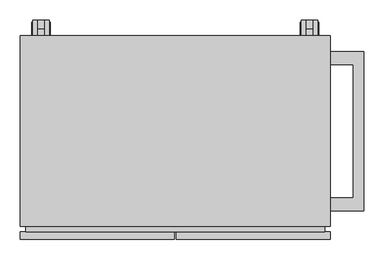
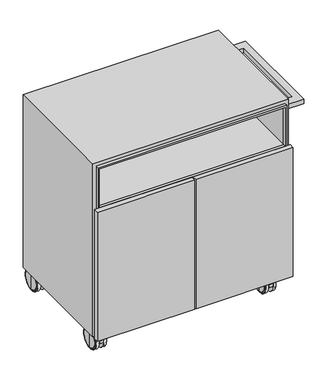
"""IFC4 building model written with IfcOpenShell, lengths in millimetres: furniture geometry, Steelcase Coalesse - Exponents - Storage - Mobile Cart : 19 3/4D X 30W X 32H."""

from ifc_helpers import new_model, si_unit, point, frame, frame_2d, origin, place, context, project, spatial, polyline, circle_curve, ellipse_curve, trimmed, segment, composite_curve, outline, extrude, faceted_brep, source, transform, mapped, element, save
from ifc_brep_helpers import plane_surface, cylinder_surface, revolved_surface, advanced_brep


def furniture_2f48e15f(model_context):
    return source(origin(), model_context, "Body", "SolidModel", [
        advanced_brep(
        [(27.94, 497.8146, 77.57023), (27.94, 497.8146, 7.16417), (27.94, 497.8146, 42.3672), (28.1659176, 497.8146, 79.7959885), (28.1659176, 497.8146, 4.9384115), (30.8610356, 497.8146, 82.9149652), (30.8610356, 497.8146, 1.8194348), (30.8610356, 497.8146, 84.7344), (30.8610356, 497.8146, 0.0), (41.6052, 497.8146, 84.7344), (41.6052, 497.8146, 0.0), (41.6052, 497.8146, 70.1188345), (41.6052, 497.8146, 14.6155655), (43.18, 497.8146, 70.1188345), (43.18, 497.8146, 14.6155655), (43.18, 497.8146, 42.3672)],
        [
            (0, 1, circle_curve(frame((27.94, 497.8146, 42.3672), z_axis=(-1.0, 0.0, 0.0), x_axis=(0.0, 0.0, -1.0)), 35.20303)),
            (1, 2),
            (2, 0),
            (1, 0, circle_curve(frame((27.94, 497.8146, 42.3672), z_axis=(-1.0, 0.0, 0.0), x_axis=(0.0, 0.0, -1.0)), 35.20303)),
            (3, 4, circle_curve(frame((28.1659176, 497.8146, 42.3672), z_axis=(-1.0, 0.0, 0.0), x_axis=(0.0, 0.0, -1.0)), 37.4287885)),
            (4, 1, circle_curve(frame((39.0171352, 497.8146, 7.16417), z_axis=(0.0, 1.0, 0.0), x_axis=(1.0, 0.0, 0.0)), 11.0771352)),
            (0, 3, circle_curve(frame((39.0171352, 497.8146, 77.57023), z_axis=(0.0, 1.0, 0.0), x_axis=(1.0, 0.0, 0.0)), 11.0771352)),
            (4, 3, circle_curve(frame((28.1659176, 497.8146, 42.3672), z_axis=(-1.0, 0.0, 0.0), x_axis=(0.0, 0.0, -1.0)), 37.4287885)),
            (5, 6, circle_curve(frame((30.8610356, 497.8146, 42.3672), z_axis=(-1.0, 0.0, 0.0), x_axis=(0.0, 0.0, -1.0)), 40.5477652)),
            (6, 4, circle_curve(frame((32.2994094, 497.8146, 5.7862568), z_axis=(0.0, 1.0, 0.0), x_axis=(1.0, 0.0, 0.0)), 4.2195493)),
            (3, 5, circle_curve(frame((32.2994094, 497.8146, 78.9481432), z_axis=(0.0, 1.0, 0.0), x_axis=(1.0, 0.0, 0.0)), 4.2195493)),
            (6, 5, circle_curve(frame((30.8610356, 497.8146, 42.3672), z_axis=(-1.0, 0.0, 0.0), x_axis=(0.0, 0.0, -1.0)), 40.5477652)),
            (7, 8, circle_curve(frame((30.8610356, 497.8146, 42.3672), z_axis=(-1.0, 0.0, 0.0), x_axis=(0.0, 0.0, -1.0)), 42.3672)),
            (8, 6),
            (5, 7),
            (8, 7, circle_curve(frame((30.8610356, 497.8146, 42.3672), z_axis=(-1.0, 0.0, 0.0), x_axis=(0.0, 0.0, -1.0)), 42.3672)),
            (9, 10, circle_curve(frame((41.6052, 497.8146, 42.3672), z_axis=(-1.0, 0.0, 0.0), x_axis=(0.0, 0.0, -1.0)), 42.3672)),
            (10, 8),
            (7, 9),
            (10, 9, circle_curve(frame((41.6052, 497.8146, 42.3672), z_axis=(-1.0, 0.0, 0.0), x_axis=(0.0, 0.0, -1.0)), 42.3672)),
            (11, 12, circle_curve(frame((41.6052, 497.8146, 42.3672), z_axis=(-1.0, 0.0, 0.0), x_axis=(0.0, 0.0, -1.0)), 27.7516345)),
            (12, 10),
            (9, 11),
            (12, 11, circle_curve(frame((41.6052, 497.8146, 42.3672), z_axis=(-1.0, 0.0, 0.0), x_axis=(0.0, 0.0, -1.0)), 27.7516345)),
            (13, 14, circle_curve(frame((43.18, 497.8146, 42.3672), z_axis=(-1.0, 0.0, 0.0), x_axis=(0.0, 0.0, -1.0)), 27.7516345)),
            (14, 12),
            (11, 13),
            (14, 13, circle_curve(frame((43.18, 497.8146, 42.3672), z_axis=(-1.0, 0.0, 0.0), x_axis=(0.0, 0.0, -1.0)), 27.7516345)),
            (15, 14),
            (13, 15),
        ],
        [
            plane_surface(frame((27.94, 497.8146, 42.3672), z_axis=(-1.0, 0.0, 0.0), x_axis=(0.0, 0.0, -1.0))),
            revolved_surface(trimmed(ellipse_curve(frame((39.0171352, 497.8146, 7.16417), z_axis=(0.0, -1.0, 0.0), x_axis=(1.0, 0.0, 0.0)), 11.0771352, 11.0771352), [point((27.94, 497.8146, 7.16417))], [point((28.1659176, 497.8146, 4.9384115))], True, "CARTESIAN"), (27.94, 497.8146, 42.3672), (1.0, 0.0, 0.0)),
            revolved_surface(trimmed(ellipse_curve(frame((32.2994094, 497.8146, 5.7862568), z_axis=(0.0, -1.0, 0.0), x_axis=(1.0, 0.0, 0.0)), 4.2195493, 4.2195493), [point((28.1659176, 497.8146, 4.9384115))], [point((30.8610356, 497.8146, 1.8194348))], True, "CARTESIAN"), (27.94, 497.8146, 42.3672), (1.0, 0.0, 0.0)),
            plane_surface(frame((30.8610356, 497.8146, 42.3672), z_axis=(-1.0, 0.0, 0.0), x_axis=(0.0, 0.0, -1.0))),
            cylinder_surface(frame((27.94, 497.8146, 42.3672), z_axis=(1.0, 0.0, 0.0), x_axis=(0.0, 0.0, -1.0)), 42.3672),
            plane_surface(frame((41.6052, 497.8146, 42.3672), z_axis=(1.0, 0.0, 0.0), x_axis=(0.0, 0.0, -1.0))),
            cylinder_surface(frame((27.94, 497.8146, 42.3672), z_axis=(1.0, 0.0, 0.0), x_axis=(0.0, 0.0, -1.0)), 27.7516345),
            plane_surface(frame((43.18, 497.8146, 42.3672), z_axis=(1.0, 0.0, 0.0), x_axis=(0.0, 0.0, -1.0))),
        ],
        [
            (0, [[1, 2, 3]]),
            (0, [[4, -3, -2]]),
            (1, [[5, 6, -1, 7]]),
            (1, [[8, -7, -4, -6]]),
            (2, [[9, 10, -5, 11]]),
            (2, [[12, -11, -8, -10]]),
            (3, [[13, 14, -9, 15]]),
            (3, [[16, -15, -12, -14]]),
            (4, [[17, 18, -13, 19]]),
            (4, [[20, -19, -16, -18]]),
            (5, [[21, 22, -17, 23]]),
            (5, [[24, -23, -20, -22]]),
            (6, [[25, 26, -21, 27]]),
            (6, [[28, -27, -24, -26]]),
            (7, [[29, -25, 30]]),
            (7, [[-30, -28, -29]]),
        ],
    ),
        extrude(outline(composite_curve([segment(polyline([(530.225, 37.9984), (455.7241881, 37.9984)]), True, "CONTINUOUS"), segment(trimmed(circle_curve(frame_2d((499.8868014, 39.2316684)), 44.1798299), [point((455.7241881, 37.9984))], [point((518.939747, 79.0919573))], False, "CARTESIAN"), True, "CONTINUOUS"), segment(trimmed(circle_curve(frame_2d((497.8199262, 42.3720906)), 42.360305), [point((518.939747, 79.0919573))], [point((530.225, 15.090107))], False, "CARTESIAN"), True, "CONTINUOUS"), segment(polyline([(530.225, 15.090107), (530.225, 37.9984)]), True, "CONTINUOUS")], self_intersect=False)), frame((43.18, 0.0, 0.0), z_axis=(1.0, 0.0, 0.0), x_axis=(0.0, 1.0, 0.0)), (0.0, 0.0, 1.0), 15.24),
        extrude(outline(composite_curve([segment(trimmed(circle_curve(frame_2d((50.8111483, 463.4713876)), 7.6088517), [point((43.2022966, 463.4713876))], [point((58.42, 463.4713876))], False, "CARTESIAN"), True, "CONTINUOUS"), segment(trimmed(circle_curve(frame_2d((50.8111483, 463.4713876)), 7.6088517), [point((58.42, 463.4713876))], [point((43.2022966, 463.4713876))], False, "CARTESIAN"), True, "CONTINUOUS")], self_intersect=False)), frame((0.0, 0.0, 49.9773023), z_axis=(0.0, 0.0, 1.0), x_axis=(1.0, 0.0, 0.0)), (0.0, 0.0, 1.0), 48.3206977),
        extrude(outline(polyline([(78.359, 491.109), (78.359, 435.991), (23.241, 435.991), (23.241, 491.109), (78.359, 491.109)])), frame((0.0, 0.0, 98.298), z_axis=(0.0, 0.0, 1.0), x_axis=(1.0, 0.0, 0.0)), (0.0, 0.0, 1.0), 3.302),
        advanced_brep(
        [(58.42, 497.8146, 70.1188345), (58.42, 497.8146, 14.6155655), (58.42, 497.8146, 42.3672), (59.9948, 497.8146, 70.1188345), (59.9948, 497.8146, 14.6155655), (59.9948, 497.8146, 84.7344), (59.9948, 497.8146, 0.0), (70.7389644, 497.8146, 84.7344), (70.7389644, 497.8146, 0.0), (70.7389644, 497.8146, 82.9149652), (70.7389644, 497.8146, 1.8194348), (73.4340824, 497.8146, 79.7959885), (73.4340824, 497.8146, 4.9384115), (73.66, 497.8146, 77.57023), (73.66, 497.8146, 7.16417), (73.66, 497.8146, 42.3672)],
        [
            (0, 1, circle_curve(frame((58.42, 497.8146, 42.3672), z_axis=(-1.0, 0.0, 0.0), x_axis=(0.0, 0.0, -1.0)), 27.7516345)),
            (1, 2),
            (2, 0),
            (1, 0, circle_curve(frame((58.42, 497.8146, 42.3672), z_axis=(-1.0, 0.0, 0.0), x_axis=(0.0, 0.0, -1.0)), 27.7516345)),
            (3, 4, circle_curve(frame((59.9948, 497.8146, 42.3672), z_axis=(-1.0, 0.0, 0.0), x_axis=(0.0, 0.0, -1.0)), 27.7516345)),
            (4, 1),
            (0, 3),
            (4, 3, circle_curve(frame((59.9948, 497.8146, 42.3672), z_axis=(-1.0, 0.0, 0.0), x_axis=(0.0, 0.0, -1.0)), 27.7516345)),
            (5, 6, circle_curve(frame((59.9948, 497.8146, 42.3672), z_axis=(-1.0, 0.0, 0.0), x_axis=(0.0, 0.0, -1.0)), 42.3672)),
            (6, 4),
            (3, 5),
            (6, 5, circle_curve(frame((59.9948, 497.8146, 42.3672), z_axis=(-1.0, 0.0, 0.0), x_axis=(0.0, 0.0, -1.0)), 42.3672)),
            (7, 8, circle_curve(frame((70.7389644, 497.8146, 42.3672), z_axis=(-1.0, 0.0, 0.0), x_axis=(0.0, 0.0, -1.0)), 42.3672)),
            (8, 6),
            (5, 7),
            (8, 7, circle_curve(frame((70.7389644, 497.8146, 42.3672), z_axis=(-1.0, 0.0, 0.0), x_axis=(0.0, 0.0, -1.0)), 42.3672)),
            (9, 10, circle_curve(frame((70.7389644, 497.8146, 42.3672), z_axis=(-1.0, 0.0, 0.0), x_axis=(0.0, 0.0, -1.0)), 40.5477652)),
            (10, 8),
            (7, 9),
            (10, 9, circle_curve(frame((70.7389644, 497.8146, 42.3672), z_axis=(-1.0, 0.0, 0.0), x_axis=(0.0, 0.0, -1.0)), 40.5477652)),
            (11, 12, circle_curve(frame((73.4340824, 497.8146, 42.3672), z_axis=(-1.0, 0.0, 0.0), x_axis=(0.0, 0.0, -1.0)), 37.4287885)),
            (12, 10, circle_curve(frame((69.3005906, 497.8146, 5.7862568), z_axis=(0.0, 1.0, 0.0), x_axis=(-1.0, 0.0, 0.0)), 4.2195493)),
            (9, 11, circle_curve(frame((69.3005906, 497.8146, 78.9481432), z_axis=(0.0, 1.0, 0.0), x_axis=(-1.0, 0.0, 0.0)), 4.2195493)),
            (12, 11, circle_curve(frame((73.4340824, 497.8146, 42.3672), z_axis=(-1.0, 0.0, 0.0), x_axis=(0.0, 0.0, -1.0)), 37.4287885)),
            (13, 14, circle_curve(frame((73.66, 497.8146, 42.3672), z_axis=(-1.0, 0.0, 0.0), x_axis=(0.0, 0.0, -1.0)), 35.20303)),
            (14, 12, circle_curve(frame((62.5828648, 497.8146, 7.16417), z_axis=(0.0, 1.0, 0.0), x_axis=(-1.0, 0.0, 0.0)), 11.0771352)),
            (11, 13, circle_curve(frame((62.5828648, 497.8146, 77.57023), z_axis=(0.0, 1.0, 0.0), x_axis=(-1.0, 0.0, 0.0)), 11.0771352)),
            (14, 13, circle_curve(frame((73.66, 497.8146, 42.3672), z_axis=(-1.0, 0.0, 0.0), x_axis=(0.0, 0.0, -1.0)), 35.20303)),
            (15, 14),
            (13, 15),
        ],
        [
            plane_surface(frame((58.42, 497.8146, 42.3672), z_axis=(-1.0, 0.0, 0.0), x_axis=(0.0, 0.0, -1.0))),
            cylinder_surface(frame((73.66, 497.8146, 42.3672), z_axis=(1.0, 0.0, 0.0), x_axis=(0.0, 0.0, -1.0)), 27.7516345),
            plane_surface(frame((59.9948, 497.8146, 42.3672), z_axis=(-1.0, 0.0, 0.0), x_axis=(0.0, 0.0, -1.0))),
            cylinder_surface(frame((73.66, 497.8146, 42.3672), z_axis=(1.0, 0.0, 0.0), x_axis=(0.0, 0.0, -1.0)), 42.3672),
            plane_surface(frame((70.7389644, 497.8146, 42.3672), z_axis=(1.0, 0.0, 0.0), x_axis=(0.0, 0.0, -1.0))),
            revolved_surface(trimmed(ellipse_curve(frame((69.3005906, 497.8146, 5.7862568), z_axis=(0.0, -1.0, 0.0), x_axis=(-1.0, 0.0, 0.0)), 4.2195493, 4.2195493), [point((70.7389644, 497.8146, 1.8194348))], [point((73.4340824, 497.8146, 4.9384115))], True, "CARTESIAN"), (73.66, 497.8146, 42.3672), (1.0, 0.0, 0.0)),
            revolved_surface(trimmed(ellipse_curve(frame((62.5828648, 497.8146, 7.16417), z_axis=(0.0, -1.0, 0.0), x_axis=(-1.0, 0.0, 0.0)), 11.0771352, 11.0771352), [point((73.4340824, 497.8146, 4.9384115))], [point((73.66, 497.8146, 7.16417))], True, "CARTESIAN"), (73.66, 497.8146, 42.3672), (1.0, 0.0, 0.0)),
            plane_surface(frame((73.66, 497.8146, 42.3672), z_axis=(1.0, 0.0, 0.0), x_axis=(0.0, 0.0, -1.0))),
        ],
        [
            (0, [[1, 2, 3]]),
            (0, [[4, -3, -2]]),
            (1, [[5, 6, -1, 7]]),
            (1, [[8, -7, -4, -6]]),
            (2, [[9, 10, -5, 11]]),
            (2, [[12, -11, -8, -10]]),
            (3, [[13, 14, -9, 15]]),
            (3, [[16, -15, -12, -14]]),
            (4, [[17, 18, -13, 19]]),
            (4, [[20, -19, -16, -18]]),
            (5, [[21, 22, -17, 23]]),
            (5, [[24, -23, -20, -22]]),
            (6, [[25, 26, -21, 27]]),
            (6, [[28, -27, -24, -26]]),
            (7, [[29, -25, 30]]),
            (7, [[-30, -28, -29]]),
        ],
    ),
        advanced_brep(
        [(27.94, 104.1146, 77.57023), (27.94, 104.1146, 7.16417), (27.94, 104.1146, 42.3672), (28.1659176, 104.1146, 79.7959885), (28.1659176, 104.1146, 4.9384115), (30.8610356, 104.1146, 82.9149652), (30.8610356, 104.1146, 1.8194348), (30.8610356, 104.1146, 84.7344), (30.8610356, 104.1146, 0.0), (41.6052, 104.1146, 84.7344), (41.6052, 104.1146, 0.0), (41.6052, 104.1146, 70.1188345), (41.6052, 104.1146, 14.6155655), (43.18, 104.1146, 70.1188345), (43.18, 104.1146, 14.6155655), (43.18, 104.1146, 42.3672)],
        [
            (0, 1, circle_curve(frame((27.94, 104.1146, 42.3672), z_axis=(-1.0, 0.0, 0.0), x_axis=(0.0, 0.0, -1.0)), 35.20303)),
            (1, 2),
            (2, 0),
            (1, 0, circle_curve(frame((27.94, 104.1146, 42.3672), z_axis=(-1.0, 0.0, 0.0), x_axis=(0.0, 0.0, -1.0)), 35.20303)),
            (3, 4, circle_curve(frame((28.1659176, 104.1146, 42.3672), z_axis=(-1.0, 0.0, 0.0), x_axis=(0.0, 0.0, -1.0)), 37.4287885)),
            (4, 1, circle_curve(frame((39.0171352, 104.1146, 7.16417), z_axis=(0.0, 1.0, 0.0), x_axis=(1.0, 0.0, 0.0)), 11.0771352)),
            (0, 3, circle_curve(frame((39.0171352, 104.1146, 77.57023), z_axis=(0.0, 1.0, 0.0), x_axis=(1.0, 0.0, 0.0)), 11.0771352)),
            (4, 3, circle_curve(frame((28.1659176, 104.1146, 42.3672), z_axis=(-1.0, 0.0, 0.0), x_axis=(0.0, 0.0, -1.0)), 37.4287885)),
            (5, 6, circle_curve(frame((30.8610356, 104.1146, 42.3672), z_axis=(-1.0, 0.0, 0.0), x_axis=(0.0, 0.0, -1.0)), 40.5477652)),
            (6, 4, circle_curve(frame((32.2994094, 104.1146, 5.7862568), z_axis=(0.0, 1.0, 0.0), x_axis=(1.0, 0.0, 0.0)), 4.2195493)),
            (3, 5, circle_curve(frame((32.2994094, 104.1146, 78.9481432), z_axis=(0.0, 1.0, 0.0), x_axis=(1.0, 0.0, 0.0)), 4.2195493)),
            (6, 5, circle_curve(frame((30.8610356, 104.1146, 42.3672), z_axis=(-1.0, 0.0, 0.0), x_axis=(0.0, 0.0, -1.0)), 40.5477652)),
            (7, 8, circle_curve(frame((30.8610356, 104.1146, 42.3672), z_axis=(-1.0, 0.0, 0.0), x_axis=(0.0, 0.0, -1.0)), 42.3672)),
            (8, 6),
            (5, 7),
            (8, 7, circle_curve(frame((30.8610356, 104.1146, 42.3672), z_axis=(-1.0, 0.0, 0.0), x_axis=(0.0, 0.0, -1.0)), 42.3672)),
            (9, 10, circle_curve(frame((41.6052, 104.1146, 42.3672), z_axis=(-1.0, 0.0, 0.0), x_axis=(0.0, 0.0, -1.0)), 42.3672)),
            (10, 8),
            (7, 9),
            (10, 9, circle_curve(frame((41.6052, 104.1146, 42.3672), z_axis=(-1.0, 0.0, 0.0), x_axis=(0.0, 0.0, -1.0)), 42.3672)),
            (11, 12, circle_curve(frame((41.6052, 104.1146, 42.3672), z_axis=(-1.0, 0.0, 0.0), x_axis=(0.0, 0.0, -1.0)), 27.7516345)),
            (12, 10),
            (9, 11),
            (12, 11, circle_curve(frame((41.6052, 104.1146, 42.3672), z_axis=(-1.0, 0.0, 0.0), x_axis=(0.0, 0.0, -1.0)), 27.7516345)),
            (13, 14, circle_curve(frame((43.18, 104.1146, 42.3672), z_axis=(-1.0, 0.0, 0.0), x_axis=(0.0, 0.0, -1.0)), 27.7516345)),
            (14, 12),
            (11, 13),
            (14, 13, circle_curve(frame((43.18, 104.1146, 42.3672), z_axis=(-1.0, 0.0, 0.0), x_axis=(0.0, 0.0, -1.0)), 27.7516345)),
            (15, 14),
            (13, 15),
        ],
        [
            plane_surface(frame((27.94, 104.1146, 42.3672), z_axis=(-1.0, 0.0, 0.0), x_axis=(0.0, 0.0, -1.0))),
            revolved_surface(trimmed(ellipse_curve(frame((39.0171352, 104.1146, 7.16417), z_axis=(0.0, -1.0, 0.0), x_axis=(1.0, 0.0, 0.0)), 11.0771352, 11.0771352), [point((27.94, 104.1146, 7.16417))], [point((28.1659176, 104.1146, 4.9384115))], True, "CARTESIAN"), (27.94, 104.1146, 42.3672), (1.0, 0.0, 0.0)),
            revolved_surface(trimmed(ellipse_curve(frame((32.2994094, 104.1146, 5.7862568), z_axis=(0.0, -1.0, 0.0), x_axis=(1.0, 0.0, 0.0)), 4.2195493, 4.2195493), [point((28.1659176, 104.1146, 4.9384115))], [point((30.8610356, 104.1146, 1.8194348))], True, "CARTESIAN"), (27.94, 104.1146, 42.3672), (1.0, 0.0, 0.0)),
            plane_surface(frame((30.8610356, 104.1146, 42.3672), z_axis=(-1.0, 0.0, 0.0), x_axis=(0.0, 0.0, -1.0))),
            cylinder_surface(frame((27.94, 104.1146, 42.3672), z_axis=(1.0, 0.0, 0.0), x_axis=(0.0, 0.0, -1.0)), 42.3672),
            plane_surface(frame((41.6052, 104.1146, 42.3672), z_axis=(1.0, 0.0, 0.0), x_axis=(0.0, 0.0, -1.0))),
            cylinder_surface(frame((27.94, 104.1146, 42.3672), z_axis=(1.0, 0.0, 0.0), x_axis=(0.0, 0.0, -1.0)), 27.7516345),
            plane_surface(frame((43.18, 104.1146, 42.3672), z_axis=(1.0, 0.0, 0.0), x_axis=(0.0, 0.0, -1.0))),
        ],
        [
            (0, [[1, 2, 3]]),
            (0, [[4, -3, -2]]),
            (1, [[5, 6, -1, 7]]),
            (1, [[8, -7, -4, -6]]),
            (2, [[9, 10, -5, 11]]),
            (2, [[12, -11, -8, -10]]),
            (3, [[13, 14, -9, 15]]),
            (3, [[16, -15, -12, -14]]),
            (4, [[17, 18, -13, 19]]),
            (4, [[20, -19, -16, -18]]),
            (5, [[21, 22, -17, 23]]),
            (5, [[24, -23, -20, -22]]),
            (6, [[25, 26, -21, 27]]),
            (6, [[28, -27, -24, -26]]),
            (7, [[29, -25, 30]]),
            (7, [[-30, -28, -29]]),
        ],
    ),
        extrude(outline(composite_curve([segment(polyline([(136.525, 37.9984), (62.0241881, 37.9984)]), True, "CONTINUOUS"), segment(trimmed(circle_curve(frame_2d((106.1868014, 39.2316684)), 44.1798299), [point((62.0241881, 37.9984))], [point((125.239747, 79.0919573))], False, "CARTESIAN"), True, "CONTINUOUS"), segment(trimmed(circle_curve(frame_2d((104.1199262, 42.3720906)), 42.360305), [point((125.239747, 79.0919573))], [point((136.525, 15.090107))], False, "CARTESIAN"), True, "CONTINUOUS"), segment(polyline([(136.525, 15.090107), (136.525, 37.9984)]), True, "CONTINUOUS")], self_intersect=False)), frame((43.18, 0.0, 0.0), z_axis=(1.0, 0.0, 0.0), x_axis=(0.0, 1.0, 0.0)), (0.0, 0.0, 1.0), 15.24),
        extrude(outline(composite_curve([segment(trimmed(circle_curve(frame_2d((50.8111483, 69.7713876)), 7.6088517), [point((43.2022966, 69.7713876))], [point((58.42, 69.7713876))], False, "CARTESIAN"), True, "CONTINUOUS"), segment(trimmed(circle_curve(frame_2d((50.8111483, 69.7713876)), 7.6088517), [point((58.42, 69.7713876))], [point((43.2022966, 69.7713876))], False, "CARTESIAN"), True, "CONTINUOUS")], self_intersect=False)), frame((0.0, 0.0, 49.9773023), z_axis=(0.0, 0.0, 1.0), x_axis=(1.0, 0.0, 0.0)), (0.0, 0.0, 1.0), 48.3206977),
        extrude(outline(polyline([(78.359, 97.409), (78.359, 42.291), (23.241, 42.291), (23.241, 97.409), (78.359, 97.409)])), frame((0.0, 0.0, 98.298), z_axis=(0.0, 0.0, 1.0), x_axis=(1.0, 0.0, 0.0)), (0.0, 0.0, 1.0), 3.302),
        advanced_brep(
        [(58.42, 104.1146, 70.1188345), (58.42, 104.1146, 14.6155655), (58.42, 104.1146, 42.3672), (59.9948, 104.1146, 70.1188345), (59.9948, 104.1146, 14.6155655), (59.9948, 104.1146, 84.7344), (59.9948, 104.1146, 0.0), (70.7389644, 104.1146, 84.7344), (70.7389644, 104.1146, 0.0), (70.7389644, 104.1146, 82.9149652), (70.7389644, 104.1146, 1.8194348), (73.4340824, 104.1146, 79.7959885), (73.4340824, 104.1146, 4.9384115), (73.66, 104.1146, 77.57023), (73.66, 104.1146, 7.16417), (73.66, 104.1146, 42.3672)],
        [
            (0, 1, circle_curve(frame((58.42, 104.1146, 42.3672), z_axis=(-1.0, 0.0, 0.0), x_axis=(0.0, 0.0, -1.0)), 27.7516345)),
            (1, 2),
            (2, 0),
            (1, 0, circle_curve(frame((58.42, 104.1146, 42.3672), z_axis=(-1.0, 0.0, 0.0), x_axis=(0.0, 0.0, -1.0)), 27.7516345)),
            (3, 4, circle_curve(frame((59.9948, 104.1146, 42.3672), z_axis=(-1.0, 0.0, 0.0), x_axis=(0.0, 0.0, -1.0)), 27.7516345)),
            (4, 1),
            (0, 3),
            (4, 3, circle_curve(frame((59.9948, 104.1146, 42.3672), z_axis=(-1.0, 0.0, 0.0), x_axis=(0.0, 0.0, -1.0)), 27.7516345)),
            (5, 6, circle_curve(frame((59.9948, 104.1146, 42.3672), z_axis=(-1.0, 0.0, 0.0), x_axis=(0.0, 0.0, -1.0)), 42.3672)),
            (6, 4),
            (3, 5),
            (6, 5, circle_curve(frame((59.9948, 104.1146, 42.3672), z_axis=(-1.0, 0.0, 0.0), x_axis=(0.0, 0.0, -1.0)), 42.3672)),
            (7, 8, circle_curve(frame((70.7389644, 104.1146, 42.3672), z_axis=(-1.0, 0.0, 0.0), x_axis=(0.0, 0.0, -1.0)), 42.3672)),
            (8, 6),
            (5, 7),
            (8, 7, circle_curve(frame((70.7389644, 104.1146, 42.3672), z_axis=(-1.0, 0.0, 0.0), x_axis=(0.0, 0.0, -1.0)), 42.3672)),
            (9, 10, circle_curve(frame((70.7389644, 104.1146, 42.3672), z_axis=(-1.0, 0.0, 0.0), x_axis=(0.0, 0.0, -1.0)), 40.5477652)),
            (10, 8),
            (7, 9),
            (10, 9, circle_curve(frame((70.7389644, 104.1146, 42.3672), z_axis=(-1.0, 0.0, 0.0), x_axis=(0.0, 0.0, -1.0)), 40.5477652)),
            (11, 12, circle_curve(frame((73.4340824, 104.1146, 42.3672), z_axis=(-1.0, 0.0, 0.0), x_axis=(0.0, 0.0, -1.0)), 37.4287885)),
            (12, 10, circle_curve(frame((69.3005906, 104.1146, 5.7862568), z_axis=(0.0, 1.0, 0.0), x_axis=(-1.0, 0.0, 0.0)), 4.2195493)),
            (9, 11, circle_curve(frame((69.3005906, 104.1146, 78.9481432), z_axis=(0.0, 1.0, 0.0), x_axis=(-1.0, 0.0, 0.0)), 4.2195493)),
            (12, 11, circle_curve(frame((73.4340824, 104.1146, 42.3672), z_axis=(-1.0, 0.0, 0.0), x_axis=(0.0, 0.0, -1.0)), 37.4287885)),
            (13, 14, circle_curve(frame((73.66, 104.1146, 42.3672), z_axis=(-1.0, 0.0, 0.0), x_axis=(0.0, 0.0, -1.0)), 35.20303)),
            (14, 12, circle_curve(frame((62.5828648, 104.1146, 7.16417), z_axis=(0.0, 1.0, 0.0), x_axis=(-1.0, 0.0, 0.0)), 11.0771352)),
            (11, 13, circle_curve(frame((62.5828648, 104.1146, 77.57023), z_axis=(0.0, 1.0, 0.0), x_axis=(-1.0, 0.0, 0.0)), 11.0771352)),
            (14, 13, circle_curve(frame((73.66, 104.1146, 42.3672), z_axis=(-1.0, 0.0, 0.0), x_axis=(0.0, 0.0, -1.0)), 35.20303)),
            (15, 14),
            (13, 15),
        ],
        [
            plane_surface(frame((58.42, 104.1146, 42.3672), z_axis=(-1.0, 0.0, 0.0), x_axis=(0.0, 0.0, -1.0))),
            cylinder_surface(frame((73.66, 104.1146, 42.3672), z_axis=(1.0, 0.0, 0.0), x_axis=(0.0, 0.0, -1.0)), 27.7516345),
            plane_surface(frame((59.9948, 104.1146, 42.3672), z_axis=(-1.0, 0.0, 0.0), x_axis=(0.0, 0.0, -1.0))),
            cylinder_surface(frame((73.66, 104.1146, 42.3672), z_axis=(1.0, 0.0, 0.0), x_axis=(0.0, 0.0, -1.0)), 42.3672),
            plane_surface(frame((70.7389644, 104.1146, 42.3672), z_axis=(1.0, 0.0, 0.0), x_axis=(0.0, 0.0, -1.0))),
            revolved_surface(trimmed(ellipse_curve(frame((69.3005906, 104.1146, 5.7862568), z_axis=(0.0, -1.0, 0.0), x_axis=(-1.0, 0.0, 0.0)), 4.2195493, 4.2195493), [point((70.7389644, 104.1146, 1.8194348))], [point((73.4340824, 104.1146, 4.9384115))], True, "CARTESIAN"), (73.66, 104.1146, 42.3672), (1.0, 0.0, 0.0)),
            revolved_surface(trimmed(ellipse_curve(frame((62.5828648, 104.1146, 7.16417), z_axis=(0.0, -1.0, 0.0), x_axis=(-1.0, 0.0, 0.0)), 11.0771352, 11.0771352), [point((73.4340824, 104.1146, 4.9384115))], [point((73.66, 104.1146, 7.16417))], True, "CARTESIAN"), (73.66, 104.1146, 42.3672), (1.0, 0.0, 0.0)),
            plane_surface(frame((73.66, 104.1146, 42.3672), z_axis=(1.0, 0.0, 0.0), x_axis=(0.0, 0.0, -1.0))),
        ],
        [
            (0, [[1, 2, 3]]),
            (0, [[4, -3, -2]]),
            (1, [[5, 6, -1, 7]]),
            (1, [[8, -7, -4, -6]]),
            (2, [[9, 10, -5, 11]]),
            (2, [[12, -11, -8, -10]]),
            (3, [[13, 14, -9, 15]]),
            (3, [[16, -15, -12, -14]]),
            (4, [[17, 18, -13, 19]]),
            (4, [[20, -19, -16, -18]]),
            (5, [[21, 22, -17, 23]]),
            (5, [[24, -23, -20, -22]]),
            (6, [[25, 26, -21, 27]]),
            (6, [[28, -27, -24, -26]]),
            (7, [[29, -25, 30]]),
            (7, [[-30, -28, -29]]),
        ],
    ),
        advanced_brep(
        [(688.34, 497.8146, 77.57023), (688.34, 497.8146, 7.16417), (688.34, 497.8146, 42.3672), (688.5659176, 497.8146, 79.7959885), (688.5659176, 497.8146, 4.9384115), (691.2610356, 497.8146, 82.9149652), (691.2610356, 497.8146, 1.8194348), (691.2610356, 497.8146, 84.7344), (691.2610356, 497.8146, 0.0), (702.0052, 497.8146, 84.7344), (702.0052, 497.8146, 0.0), (702.0052, 497.8146, 70.1188345), (702.0052, 497.8146, 14.6155655), (703.58, 497.8146, 70.1188345), (703.58, 497.8146, 14.6155655), (703.58, 497.8146, 42.3672)],
        [
            (0, 1, circle_curve(frame((688.34, 497.8146, 42.3672), z_axis=(-1.0, 0.0, 0.0), x_axis=(0.0, 0.0, -1.0)), 35.20303)),
            (1, 2),
            (2, 0),
            (1, 0, circle_curve(frame((688.34, 497.8146, 42.3672), z_axis=(-1.0, 0.0, 0.0), x_axis=(0.0, 0.0, -1.0)), 35.20303)),
            (3, 4, circle_curve(frame((688.5659176, 497.8146, 42.3672), z_axis=(-1.0, 0.0, 0.0), x_axis=(0.0, 0.0, -1.0)), 37.4287885)),
            (4, 1, circle_curve(frame((699.4171352, 497.8146, 7.16417), z_axis=(0.0, 1.0, 0.0), x_axis=(1.0, 0.0, 0.0)), 11.0771352)),
            (0, 3, circle_curve(frame((699.4171352, 497.8146, 77.57023), z_axis=(0.0, 1.0, 0.0), x_axis=(1.0, 0.0, 0.0)), 11.0771352)),
            (4, 3, circle_curve(frame((688.5659176, 497.8146, 42.3672), z_axis=(-1.0, 0.0, 0.0), x_axis=(0.0, 0.0, -1.0)), 37.4287885)),
            (5, 6, circle_curve(frame((691.2610356, 497.8146, 42.3672), z_axis=(-1.0, 0.0, 0.0), x_axis=(0.0, 0.0, -1.0)), 40.5477652)),
            (6, 4, circle_curve(frame((692.6994094, 497.8146, 5.7862568), z_axis=(0.0, 1.0, 0.0), x_axis=(1.0, 0.0, 0.0)), 4.2195493)),
            (3, 5, circle_curve(frame((692.6994094, 497.8146, 78.9481432), z_axis=(0.0, 1.0, 0.0), x_axis=(1.0, 0.0, 0.0)), 4.2195493)),
            (6, 5, circle_curve(frame((691.2610356, 497.8146, 42.3672), z_axis=(-1.0, 0.0, 0.0), x_axis=(0.0, 0.0, -1.0)), 40.5477652)),
            (7, 8, circle_curve(frame((691.2610356, 497.8146, 42.3672), z_axis=(-1.0, 0.0, 0.0), x_axis=(0.0, 0.0, -1.0)), 42.3672)),
            (8, 6),
            (5, 7),
            (8, 7, circle_curve(frame((691.2610356, 497.8146, 42.3672), z_axis=(-1.0, 0.0, 0.0), x_axis=(0.0, 0.0, -1.0)), 42.3672)),
            (9, 10, circle_curve(frame((702.0052, 497.8146, 42.3672), z_axis=(-1.0, 0.0, 0.0), x_axis=(0.0, 0.0, -1.0)), 42.3672)),
            (10, 8),
            (7, 9),
            (10, 9, circle_curve(frame((702.0052, 497.8146, 42.3672), z_axis=(-1.0, 0.0, 0.0), x_axis=(0.0, 0.0, -1.0)), 42.3672)),
            (11, 12, circle_curve(frame((702.0052, 497.8146, 42.3672), z_axis=(-1.0, 0.0, 0.0), x_axis=(0.0, 0.0, -1.0)), 27.7516345)),
            (12, 10),
            (9, 11),
            (12, 11, circle_curve(frame((702.0052, 497.8146, 42.3672), z_axis=(-1.0, 0.0, 0.0), x_axis=(0.0, 0.0, -1.0)), 27.7516345)),
            (13, 14, circle_curve(frame((703.58, 497.8146, 42.3672), z_axis=(-1.0, 0.0, 0.0), x_axis=(0.0, 0.0, -1.0)), 27.7516345)),
            (14, 12),
            (11, 13),
            (14, 13, circle_curve(frame((703.58, 497.8146, 42.3672), z_axis=(-1.0, 0.0, 0.0), x_axis=(0.0, 0.0, -1.0)), 27.7516345)),
            (15, 14),
            (13, 15),
        ],
        [
            plane_surface(frame((688.34, 497.8146, 42.3672), z_axis=(-1.0, 0.0, 0.0), x_axis=(0.0, 0.0, -1.0))),
            revolved_surface(trimmed(ellipse_curve(frame((699.4171352, 497.8146, 7.16417), z_axis=(0.0, -1.0, 0.0), x_axis=(1.0, 0.0, 0.0)), 11.0771352, 11.0771352), [point((688.34, 497.8146, 7.16417))], [point((688.5659176, 497.8146, 4.9384115))], True, "CARTESIAN"), (688.34, 497.8146, 42.3672), (1.0, 0.0, 0.0)),
            revolved_surface(trimmed(ellipse_curve(frame((692.6994094, 497.8146, 5.7862568), z_axis=(0.0, -1.0, 0.0), x_axis=(1.0, 0.0, 0.0)), 4.2195493, 4.2195493), [point((688.5659176, 497.8146, 4.9384115))], [point((691.2610356, 497.8146, 1.8194348))], True, "CARTESIAN"), (688.34, 497.8146, 42.3672), (1.0, 0.0, 0.0)),
            plane_surface(frame((691.2610356, 497.8146, 42.3672), z_axis=(-1.0, 0.0, 0.0), x_axis=(0.0, 0.0, -1.0))),
            cylinder_surface(frame((688.34, 497.8146, 42.3672), z_axis=(1.0, 0.0, 0.0), x_axis=(0.0, 0.0, -1.0)), 42.3672),
            plane_surface(frame((702.0052, 497.8146, 42.3672), z_axis=(1.0, 0.0, 0.0), x_axis=(0.0, 0.0, -1.0))),
            cylinder_surface(frame((688.34, 497.8146, 42.3672), z_axis=(1.0, 0.0, 0.0), x_axis=(0.0, 0.0, -1.0)), 27.7516345),
            plane_surface(frame((703.58, 497.8146, 42.3672), z_axis=(1.0, 0.0, 0.0), x_axis=(0.0, 0.0, -1.0))),
        ],
        [
            (0, [[1, 2, 3]]),
            (0, [[4, -3, -2]]),
            (1, [[5, 6, -1, 7]]),
            (1, [[8, -7, -4, -6]]),
            (2, [[9, 10, -5, 11]]),
            (2, [[12, -11, -8, -10]]),
            (3, [[13, 14, -9, 15]]),
            (3, [[16, -15, -12, -14]]),
            (4, [[17, 18, -13, 19]]),
            (4, [[20, -19, -16, -18]]),
            (5, [[21, 22, -17, 23]]),
            (5, [[24, -23, -20, -22]]),
            (6, [[25, 26, -21, 27]]),
            (6, [[28, -27, -24, -26]]),
            (7, [[29, -25, 30]]),
            (7, [[-30, -28, -29]]),
        ],
    ),
        extrude(outline(composite_curve([segment(polyline([(530.225, 37.9984), (455.7241881, 37.9984)]), True, "CONTINUOUS"), segment(trimmed(circle_curve(frame_2d((499.8868014, 39.2316684)), 44.1798299), [point((455.7241881, 37.9984))], [point((518.939747, 79.0919573))], False, "CARTESIAN"), True, "CONTINUOUS"), segment(trimmed(circle_curve(frame_2d((497.8199262, 42.3720906)), 42.360305), [point((518.939747, 79.0919573))], [point((530.225, 15.090107))], False, "CARTESIAN"), True, "CONTINUOUS"), segment(polyline([(530.225, 15.090107), (530.225, 37.9984)]), True, "CONTINUOUS")], self_intersect=False)), frame((703.58, 0.0, 0.0), z_axis=(1.0, 0.0, 0.0), x_axis=(0.0, 1.0, 0.0)), (0.0, 0.0, 1.0), 15.24),
        extrude(outline(composite_curve([segment(trimmed(circle_curve(frame_2d((711.2111483, 463.4713876)), 7.6088517), [point((703.6022966, 463.4713876))], [point((718.82, 463.4713876))], False, "CARTESIAN"), True, "CONTINUOUS"), segment(trimmed(circle_curve(frame_2d((711.2111483, 463.4713876)), 7.6088517), [point((718.82, 463.4713876))], [point((703.6022966, 463.4713876))], False, "CARTESIAN"), True, "CONTINUOUS")], self_intersect=False)), frame((0.0, 0.0, 49.9773023), z_axis=(0.0, 0.0, 1.0), x_axis=(1.0, 0.0, 0.0)), (0.0, 0.0, 1.0), 48.3206977),
        extrude(outline(polyline([(738.759, 491.109), (738.759, 435.991), (683.641, 435.991), (683.641, 491.109), (738.759, 491.109)])), frame((0.0, 0.0, 98.298), z_axis=(0.0, 0.0, 1.0), x_axis=(1.0, 0.0, 0.0)), (0.0, 0.0, 1.0), 3.302),
        advanced_brep(
        [(718.82, 497.8146, 70.1188345), (718.82, 497.8146, 14.6155655), (718.82, 497.8146, 42.3672), (720.3948, 497.8146, 70.1188345), (720.3948, 497.8146, 14.6155655), (720.3948, 497.8146, 84.7344), (720.3948, 497.8146, 0.0), (731.1389644, 497.8146, 84.7344), (731.1389644, 497.8146, 0.0), (731.1389644, 497.8146, 82.9149652), (731.1389644, 497.8146, 1.8194348), (733.8340824, 497.8146, 79.7959885), (733.8340824, 497.8146, 4.9384115), (734.06, 497.8146, 77.57023), (734.06, 497.8146, 7.16417), (734.06, 497.8146, 42.3672)],
        [
            (0, 1, circle_curve(frame((718.82, 497.8146, 42.3672), z_axis=(-1.0, 0.0, 0.0), x_axis=(0.0, 0.0, -1.0)), 27.7516345)),
            (1, 2),
            (2, 0),
            (1, 0, circle_curve(frame((718.82, 497.8146, 42.3672), z_axis=(-1.0, 0.0, 0.0), x_axis=(0.0, 0.0, -1.0)), 27.7516345)),
            (3, 4, circle_curve(frame((720.3948, 497.8146, 42.3672), z_axis=(-1.0, 0.0, 0.0), x_axis=(0.0, 0.0, -1.0)), 27.7516345)),
            (4, 1),
            (0, 3),
            (4, 3, circle_curve(frame((720.3948, 497.8146, 42.3672), z_axis=(-1.0, 0.0, 0.0), x_axis=(0.0, 0.0, -1.0)), 27.7516345)),
            (5, 6, circle_curve(frame((720.3948, 497.8146, 42.3672), z_axis=(-1.0, 0.0, 0.0), x_axis=(0.0, 0.0, -1.0)), 42.3672)),
            (6, 4),
            (3, 5),
            (6, 5, circle_curve(frame((720.3948, 497.8146, 42.3672), z_axis=(-1.0, 0.0, 0.0), x_axis=(0.0, 0.0, -1.0)), 42.3672)),
            (7, 8, circle_curve(frame((731.1389644, 497.8146, 42.3672), z_axis=(-1.0, 0.0, 0.0), x_axis=(0.0, 0.0, -1.0)), 42.3672)),
            (8, 6),
            (5, 7),
            (8, 7, circle_curve(frame((731.1389644, 497.8146, 42.3672), z_axis=(-1.0, 0.0, 0.0), x_axis=(0.0, 0.0, -1.0)), 42.3672)),
            (9, 10, circle_curve(frame((731.1389644, 497.8146, 42.3672), z_axis=(-1.0, 0.0, 0.0), x_axis=(0.0, 0.0, -1.0)), 40.5477652)),
            (10, 8),
            (7, 9),
            (10, 9, circle_curve(frame((731.1389644, 497.8146, 42.3672), z_axis=(-1.0, 0.0, 0.0), x_axis=(0.0, 0.0, -1.0)), 40.5477652)),
            (11, 12, circle_curve(frame((733.8340824, 497.8146, 42.3672), z_axis=(-1.0, 0.0, 0.0), x_axis=(0.0, 0.0, -1.0)), 37.4287885)),
            (12, 10, circle_curve(frame((729.7005906, 497.8146, 5.7862568), z_axis=(0.0, 1.0, 0.0), x_axis=(-1.0, 0.0, 0.0)), 4.2195493)),
            (9, 11, circle_curve(frame((729.7005906, 497.8146, 78.9481432), z_axis=(0.0, 1.0, 0.0), x_axis=(-1.0, 0.0, 0.0)), 4.2195493)),
            (12, 11, circle_curve(frame((733.8340824, 497.8146, 42.3672), z_axis=(-1.0, 0.0, 0.0), x_axis=(0.0, 0.0, -1.0)), 37.4287885)),
            (13, 14, circle_curve(frame((734.06, 497.8146, 42.3672), z_axis=(-1.0, 0.0, 0.0), x_axis=(0.0, 0.0, -1.0)), 35.20303)),
            (14, 12, circle_curve(frame((722.9828648, 497.8146, 7.16417), z_axis=(0.0, 1.0, 0.0), x_axis=(-1.0, 0.0, 0.0)), 11.0771352)),
            (11, 13, circle_curve(frame((722.9828648, 497.8146, 77.57023), z_axis=(0.0, 1.0, 0.0), x_axis=(-1.0, 0.0, 0.0)), 11.0771352)),
            (14, 13, circle_curve(frame((734.06, 497.8146, 42.3672), z_axis=(-1.0, 0.0, 0.0), x_axis=(0.0, 0.0, -1.0)), 35.20303)),
            (15, 14),
            (13, 15),
        ],
        [
            plane_surface(frame((718.82, 497.8146, 42.3672), z_axis=(-1.0, 0.0, 0.0), x_axis=(0.0, 0.0, -1.0))),
            cylinder_surface(frame((734.06, 497.8146, 42.3672), z_axis=(1.0, 0.0, 0.0), x_axis=(0.0, 0.0, -1.0)), 27.7516345),
            plane_surface(frame((720.3948, 497.8146, 42.3672), z_axis=(-1.0, 0.0, 0.0), x_axis=(0.0, 0.0, -1.0))),
            cylinder_surface(frame((734.06, 497.8146, 42.3672), z_axis=(1.0, 0.0, 0.0), x_axis=(0.0, 0.0, -1.0)), 42.3672),
            plane_surface(frame((731.1389644, 497.8146, 42.3672), z_axis=(1.0, 0.0, 0.0), x_axis=(0.0, 0.0, -1.0))),
            revolved_surface(trimmed(ellipse_curve(frame((729.7005906, 497.8146, 5.7862568), z_axis=(0.0, -1.0, 0.0), x_axis=(-1.0, 0.0, 0.0)), 4.2195493, 4.2195493), [point((731.1389644, 497.8146, 1.8194348))], [point((733.8340824, 497.8146, 4.9384115))], True, "CARTESIAN"), (734.06, 497.8146, 42.3672), (1.0, 0.0, 0.0)),
            revolved_surface(trimmed(ellipse_curve(frame((722.9828648, 497.8146, 7.16417), z_axis=(0.0, -1.0, 0.0), x_axis=(-1.0, 0.0, 0.0)), 11.0771352, 11.0771352), [point((733.8340824, 497.8146, 4.9384115))], [point((734.06, 497.8146, 7.16417))], True, "CARTESIAN"), (734.06, 497.8146, 42.3672), (1.0, 0.0, 0.0)),
            plane_surface(frame((734.06, 497.8146, 42.3672), z_axis=(1.0, 0.0, 0.0), x_axis=(0.0, 0.0, -1.0))),
        ],
        [
            (0, [[1, 2, 3]]),
            (0, [[4, -3, -2]]),
            (1, [[5, 6, -1, 7]]),
            (1, [[8, -7, -4, -6]]),
            (2, [[9, 10, -5, 11]]),
            (2, [[12, -11, -8, -10]]),
            (3, [[13, 14, -9, 15]]),
            (3, [[16, -15, -12, -14]]),
            (4, [[17, 18, -13, 19]]),
            (4, [[20, -19, -16, -18]]),
            (5, [[21, 22, -17, 23]]),
            (5, [[24, -23, -20, -22]]),
            (6, [[25, 26, -21, 27]]),
            (6, [[28, -27, -24, -26]]),
            (7, [[29, -25, 30]]),
            (7, [[-30, -28, -29]]),
        ],
    ),
        advanced_brep(
        [(688.34, 104.1146, 77.57023), (688.34, 104.1146, 7.16417), (688.34, 104.1146, 42.3672), (688.5659176, 104.1146, 79.7959885), (688.5659176, 104.1146, 4.9384115), (691.2610356, 104.1146, 82.9149652), (691.2610356, 104.1146, 1.8194348), (691.2610356, 104.1146, 84.7344), (691.2610356, 104.1146, 0.0), (702.0052, 104.1146, 84.7344), (702.0052, 104.1146, 0.0), (702.0052, 104.1146, 70.1188345), (702.0052, 104.1146, 14.6155655), (703.58, 104.1146, 70.1188345), (703.58, 104.1146, 14.6155655), (703.58, 104.1146, 42.3672)],
        [
            (0, 1, circle_curve(frame((688.34, 104.1146, 42.3672), z_axis=(-1.0, 0.0, 0.0), x_axis=(0.0, 0.0, -1.0)), 35.20303)),
            (1, 2),
            (2, 0),
            (1, 0, circle_curve(frame((688.34, 104.1146, 42.3672), z_axis=(-1.0, 0.0, 0.0), x_axis=(0.0, 0.0, -1.0)), 35.20303)),
            (3, 4, circle_curve(frame((688.5659176, 104.1146, 42.3672), z_axis=(-1.0, 0.0, 0.0), x_axis=(0.0, 0.0, -1.0)), 37.4287885)),
            (4, 1, circle_curve(frame((699.4171352, 104.1146, 7.16417), z_axis=(0.0, 1.0, 0.0), x_axis=(1.0, 0.0, 0.0)), 11.0771352)),
            (0, 3, circle_curve(frame((699.4171352, 104.1146, 77.57023), z_axis=(0.0, 1.0, 0.0), x_axis=(1.0, 0.0, 0.0)), 11.0771352)),
            (4, 3, circle_curve(frame((688.5659176, 104.1146, 42.3672), z_axis=(-1.0, 0.0, 0.0), x_axis=(0.0, 0.0, -1.0)), 37.4287885)),
            (5, 6, circle_curve(frame((691.2610356, 104.1146, 42.3672), z_axis=(-1.0, 0.0, 0.0), x_axis=(0.0, 0.0, -1.0)), 40.5477652)),
            (6, 4, circle_curve(frame((692.6994094, 104.1146, 5.7862568), z_axis=(0.0, 1.0, 0.0), x_axis=(1.0, 0.0, 0.0)), 4.2195493)),
            (3, 5, circle_curve(frame((692.6994094, 104.1146, 78.9481432), z_axis=(0.0, 1.0, 0.0), x_axis=(1.0, 0.0, 0.0)), 4.2195493)),
            (6, 5, circle_curve(frame((691.2610356, 104.1146, 42.3672), z_axis=(-1.0, 0.0, 0.0), x_axis=(0.0, 0.0, -1.0)), 40.5477652)),
            (7, 8, circle_curve(frame((691.2610356, 104.1146, 42.3672), z_axis=(-1.0, 0.0, 0.0), x_axis=(0.0, 0.0, -1.0)), 42.3672)),
            (8, 6),
            (5, 7),
            (8, 7, circle_curve(frame((691.2610356, 104.1146, 42.3672), z_axis=(-1.0, 0.0, 0.0), x_axis=(0.0, 0.0, -1.0)), 42.3672)),
            (9, 10, circle_curve(frame((702.0052, 104.1146, 42.3672), z_axis=(-1.0, 0.0, 0.0), x_axis=(0.0, 0.0, -1.0)), 42.3672)),
            (10, 8),
            (7, 9),
            (10, 9, circle_curve(frame((702.0052, 104.1146, 42.3672), z_axis=(-1.0, 0.0, 0.0), x_axis=(0.0, 0.0, -1.0)), 42.3672)),
            (11, 12, circle_curve(frame((702.0052, 104.1146, 42.3672), z_axis=(-1.0, 0.0, 0.0), x_axis=(0.0, 0.0, -1.0)), 27.7516345)),
            (12, 10),
            (9, 11),
            (12, 11, circle_curve(frame((702.0052, 104.1146, 42.3672), z_axis=(-1.0, 0.0, 0.0), x_axis=(0.0, 0.0, -1.0)), 27.7516345)),
            (13, 14, circle_curve(frame((703.58, 104.1146, 42.3672), z_axis=(-1.0, 0.0, 0.0), x_axis=(0.0, 0.0, -1.0)), 27.7516345)),
            (14, 12),
            (11, 13),
            (14, 13, circle_curve(frame((703.58, 104.1146, 42.3672), z_axis=(-1.0, 0.0, 0.0), x_axis=(0.0, 0.0, -1.0)), 27.7516345)),
            (15, 14),
            (13, 15),
        ],
        [
            plane_surface(frame((688.34, 104.1146, 42.3672), z_axis=(-1.0, 0.0, 0.0), x_axis=(0.0, 0.0, -1.0))),
            revolved_surface(trimmed(ellipse_curve(frame((699.4171352, 104.1146, 7.16417), z_axis=(0.0, -1.0, 0.0), x_axis=(1.0, 0.0, 0.0)), 11.0771352, 11.0771352), [point((688.34, 104.1146, 7.16417))], [point((688.5659176, 104.1146, 4.9384115))], True, "CARTESIAN"), (688.34, 104.1146, 42.3672), (1.0, 0.0, 0.0)),
            revolved_surface(trimmed(ellipse_curve(frame((692.6994094, 104.1146, 5.7862568), z_axis=(0.0, -1.0, 0.0), x_axis=(1.0, 0.0, 0.0)), 4.2195493, 4.2195493), [point((688.5659176, 104.1146, 4.9384115))], [point((691.2610356, 104.1146, 1.8194348))], True, "CARTESIAN"), (688.34, 104.1146, 42.3672), (1.0, 0.0, 0.0)),
            plane_surface(frame((691.2610356, 104.1146, 42.3672), z_axis=(-1.0, 0.0, 0.0), x_axis=(0.0, 0.0, -1.0))),
            cylinder_surface(frame((688.34, 104.1146, 42.3672), z_axis=(1.0, 0.0, 0.0), x_axis=(0.0, 0.0, -1.0)), 42.3672),
            plane_surface(frame((702.0052, 104.1146, 42.3672), z_axis=(1.0, 0.0, 0.0), x_axis=(0.0, 0.0, -1.0))),
            cylinder_surface(frame((688.34, 104.1146, 42.3672), z_axis=(1.0, 0.0, 0.0), x_axis=(0.0, 0.0, -1.0)), 27.7516345),
            plane_surface(frame((703.58, 104.1146, 42.3672), z_axis=(1.0, 0.0, 0.0), x_axis=(0.0, 0.0, -1.0))),
        ],
        [
            (0, [[1, 2, 3]]),
            (0, [[4, -3, -2]]),
            (1, [[5, 6, -1, 7]]),
            (1, [[8, -7, -4, -6]]),
            (2, [[9, 10, -5, 11]]),
            (2, [[12, -11, -8, -10]]),
            (3, [[13, 14, -9, 15]]),
            (3, [[16, -15, -12, -14]]),
            (4, [[17, 18, -13, 19]]),
            (4, [[20, -19, -16, -18]]),
            (5, [[21, 22, -17, 23]]),
            (5, [[24, -23, -20, -22]]),
            (6, [[25, 26, -21, 27]]),
            (6, [[28, -27, -24, -26]]),
            (7, [[29, -25, 30]]),
            (7, [[-30, -28, -29]]),
        ],
    ),
        extrude(outline(composite_curve([segment(polyline([(136.525, 37.9984), (62.0241881, 37.9984)]), True, "CONTINUOUS"), segment(trimmed(circle_curve(frame_2d((106.1868014, 39.2316684)), 44.1798299), [point((62.0241881, 37.9984))], [point((125.239747, 79.0919573))], False, "CARTESIAN"), True, "CONTINUOUS"), segment(trimmed(circle_curve(frame_2d((104.1199262, 42.3720906)), 42.360305), [point((125.239747, 79.0919573))], [point((136.525, 15.090107))], False, "CARTESIAN"), True, "CONTINUOUS"), segment(polyline([(136.525, 15.090107), (136.525, 37.9984)]), True, "CONTINUOUS")], self_intersect=False)), frame((703.58, 0.0, 0.0), z_axis=(1.0, 0.0, 0.0), x_axis=(0.0, 1.0, 0.0)), (0.0, 0.0, 1.0), 15.24),
        extrude(outline(composite_curve([segment(trimmed(circle_curve(frame_2d((711.2111483, 69.7713876)), 7.6088517), [point((703.6022966, 69.7713876))], [point((718.82, 69.7713876))], False, "CARTESIAN"), True, "CONTINUOUS"), segment(trimmed(circle_curve(frame_2d((711.2111483, 69.7713876)), 7.6088517), [point((718.82, 69.7713876))], [point((703.6022966, 69.7713876))], False, "CARTESIAN"), True, "CONTINUOUS")], self_intersect=False)), frame((0.0, 0.0, 49.9773023), z_axis=(0.0, 0.0, 1.0), x_axis=(1.0, 0.0, 0.0)), (0.0, 0.0, 1.0), 48.3206977),
        extrude(outline(polyline([(738.759, 97.409), (738.759, 42.291), (683.641, 42.291), (683.641, 97.409), (738.759, 97.409)])), frame((0.0, 0.0, 98.298), z_axis=(0.0, 0.0, 1.0), x_axis=(1.0, 0.0, 0.0)), (0.0, 0.0, 1.0), 3.302),
        advanced_brep(
        [(718.82, 104.1146, 70.1188345), (718.82, 104.1146, 14.6155655), (718.82, 104.1146, 42.3672), (720.3948, 104.1146, 70.1188345), (720.3948, 104.1146, 14.6155655), (720.3948, 104.1146, 84.7344), (720.3948, 104.1146, 0.0), (731.1389644, 104.1146, 84.7344), (731.1389644, 104.1146, 0.0), (731.1389644, 104.1146, 82.9149652), (731.1389644, 104.1146, 1.8194348), (733.8340824, 104.1146, 79.7959885), (733.8340824, 104.1146, 4.9384115), (734.06, 104.1146, 77.57023), (734.06, 104.1146, 7.16417), (734.06, 104.1146, 42.3672)],
        [
            (0, 1, circle_curve(frame((718.82, 104.1146, 42.3672), z_axis=(-1.0, 0.0, 0.0), x_axis=(0.0, 0.0, -1.0)), 27.7516345)),
            (1, 2),
            (2, 0),
            (1, 0, circle_curve(frame((718.82, 104.1146, 42.3672), z_axis=(-1.0, 0.0, 0.0), x_axis=(0.0, 0.0, -1.0)), 27.7516345)),
            (3, 4, circle_curve(frame((720.3948, 104.1146, 42.3672), z_axis=(-1.0, 0.0, 0.0), x_axis=(0.0, 0.0, -1.0)), 27.7516345)),
            (4, 1),
            (0, 3),
            (4, 3, circle_curve(frame((720.3948, 104.1146, 42.3672), z_axis=(-1.0, 0.0, 0.0), x_axis=(0.0, 0.0, -1.0)), 27.7516345)),
            (5, 6, circle_curve(frame((720.3948, 104.1146, 42.3672), z_axis=(-1.0, 0.0, 0.0), x_axis=(0.0, 0.0, -1.0)), 42.3672)),
            (6, 4),
            (3, 5),
            (6, 5, circle_curve(frame((720.3948, 104.1146, 42.3672), z_axis=(-1.0, 0.0, 0.0), x_axis=(0.0, 0.0, -1.0)), 42.3672)),
            (7, 8, circle_curve(frame((731.1389644, 104.1146, 42.3672), z_axis=(-1.0, 0.0, 0.0), x_axis=(0.0, 0.0, -1.0)), 42.3672)),
            (8, 6),
            (5, 7),
            (8, 7, circle_curve(frame((731.1389644, 104.1146, 42.3672), z_axis=(-1.0, 0.0, 0.0), x_axis=(0.0, 0.0, -1.0)), 42.3672)),
            (9, 10, circle_curve(frame((731.1389644, 104.1146, 42.3672), z_axis=(-1.0, 0.0, 0.0), x_axis=(0.0, 0.0, -1.0)), 40.5477652)),
            (10, 8),
            (7, 9),
            (10, 9, circle_curve(frame((731.1389644, 104.1146, 42.3672), z_axis=(-1.0, 0.0, 0.0), x_axis=(0.0, 0.0, -1.0)), 40.5477652)),
            (11, 12, circle_curve(frame((733.8340824, 104.1146, 42.3672), z_axis=(-1.0, 0.0, 0.0), x_axis=(0.0, 0.0, -1.0)), 37.4287885)),
            (12, 10, circle_curve(frame((729.7005906, 104.1146, 5.7862568), z_axis=(0.0, 1.0, 0.0), x_axis=(-1.0, 0.0, 0.0)), 4.2195493)),
            (9, 11, circle_curve(frame((729.7005906, 104.1146, 78.9481432), z_axis=(0.0, 1.0, 0.0), x_axis=(-1.0, 0.0, 0.0)), 4.2195493)),
            (12, 11, circle_curve(frame((733.8340824, 104.1146, 42.3672), z_axis=(-1.0, 0.0, 0.0), x_axis=(0.0, 0.0, -1.0)), 37.4287885)),
            (13, 14, circle_curve(frame((734.06, 104.1146, 42.3672), z_axis=(-1.0, 0.0, 0.0), x_axis=(0.0, 0.0, -1.0)), 35.20303)),
            (14, 12, circle_curve(frame((722.9828648, 104.1146, 7.16417), z_axis=(0.0, 1.0, 0.0), x_axis=(-1.0, 0.0, 0.0)), 11.0771352)),
            (11, 13, circle_curve(frame((722.9828648, 104.1146, 77.57023), z_axis=(0.0, 1.0, 0.0), x_axis=(-1.0, 0.0, 0.0)), 11.0771352)),
            (14, 13, circle_curve(frame((734.06, 104.1146, 42.3672), z_axis=(-1.0, 0.0, 0.0), x_axis=(0.0, 0.0, -1.0)), 35.20303)),
            (15, 14),
            (13, 15),
        ],
        [
            plane_surface(frame((718.82, 104.1146, 42.3672), z_axis=(-1.0, 0.0, 0.0), x_axis=(0.0, 0.0, -1.0))),
            cylinder_surface(frame((734.06, 104.1146, 42.3672), z_axis=(1.0, 0.0, 0.0), x_axis=(0.0, 0.0, -1.0)), 27.7516345),
            plane_surface(frame((720.3948, 104.1146, 42.3672), z_axis=(-1.0, 0.0, 0.0), x_axis=(0.0, 0.0, -1.0))),
            cylinder_surface(frame((734.06, 104.1146, 42.3672), z_axis=(1.0, 0.0, 0.0), x_axis=(0.0, 0.0, -1.0)), 42.3672),
            plane_surface(frame((731.1389644, 104.1146, 42.3672), z_axis=(1.0, 0.0, 0.0), x_axis=(0.0, 0.0, -1.0))),
            revolved_surface(trimmed(ellipse_curve(frame((729.7005906, 104.1146, 5.7862568), z_axis=(0.0, -1.0, 0.0), x_axis=(-1.0, 0.0, 0.0)), 4.2195493, 4.2195493), [point((731.1389644, 104.1146, 1.8194348))], [point((733.8340824, 104.1146, 4.9384115))], True, "CARTESIAN"), (734.06, 104.1146, 42.3672), (1.0, 0.0, 0.0)),
            revolved_surface(trimmed(ellipse_curve(frame((722.9828648, 104.1146, 7.16417), z_axis=(0.0, -1.0, 0.0), x_axis=(-1.0, 0.0, 0.0)), 11.0771352, 11.0771352), [point((733.8340824, 104.1146, 4.9384115))], [point((734.06, 104.1146, 7.16417))], True, "CARTESIAN"), (734.06, 104.1146, 42.3672), (1.0, 0.0, 0.0)),
            plane_surface(frame((734.06, 104.1146, 42.3672), z_axis=(1.0, 0.0, 0.0), x_axis=(0.0, 0.0, -1.0))),
        ],
        [
            (0, [[1, 2, 3]]),
            (0, [[4, -3, -2]]),
            (1, [[5, 6, -1, 7]]),
            (1, [[8, -7, -4, -6]]),
            (2, [[9, 10, -5, 11]]),
            (2, [[12, -11, -8, -10]]),
            (3, [[13, 14, -9, 15]]),
            (3, [[16, -15, -12, -14]]),
            (4, [[17, 18, -13, 19]]),
            (4, [[20, -19, -16, -18]]),
            (5, [[21, 22, -17, 23]]),
            (5, [[24, -23, -20, -22]]),
            (6, [[25, 26, -21, 27]]),
            (6, [[28, -27, -24, -26]]),
            (7, [[29, -25, 30]]),
            (7, [[-30, -28, -29]]),
        ],
    ),
        faceted_brep([(762.0, 31.75, 812.8), (762.0, 31.75, 101.6), (762.0, 501.65, 101.6), (762.0, 501.65, 812.8), (0.0, 31.75, 812.8), (0.0, 501.65, 812.8), (0.0, 501.65, 101.6), (0.0, 31.75, 101.6), (19.05, 31.75, 793.75), (742.823, 31.75, 793.75), (742.823, 31.75, 633.9078), (19.05, 31.75, 633.9078), (19.558, 31.75, 614.3498), (742.823, 31.75, 614.3498), (742.823, 31.75, 120.65), (19.558, 31.75, 120.65), (742.823, 482.6, 793.75), (19.05, 482.6, 793.75), (19.05, 482.6, 633.9078), (742.823, 482.6, 633.9078), (742.823, 482.6, 614.3498), (19.558, 482.6, 614.3498), (19.558, 482.6, 120.65), (742.823, 482.6, 120.65)], [[[0, 1, 2, 3]], [[4, 5, 6, 7]], [[1, 0, 4, 7], [8, 9, 10, 11], [12, 13, 14, 15]], [[2, 1, 7, 6]], [[3, 2, 6, 5]], [[0, 3, 5, 4]], [[16, 17, 18, 19]], [[20, 21, 22, 23]], [[17, 16, 9, 8]], [[18, 17, 8, 11]], [[19, 18, 11, 10]], [[16, 19, 10, 9]], [[21, 20, 13, 12]], [[22, 21, 12, 15]], [[23, 22, 15, 14]], [[20, 23, 14, 13]]]),
        extrude(outline(polyline([(378.714, 0.0), (0.0, 0.0), (0.0, 19.05), (378.714, 19.05), (378.714, 0.0)])), frame((0.0, 0.0, 101.6), z_axis=(0.0, 0.0, 1.0), x_axis=(1.0, 0.0, 0.0)), (0.0, 0.0, 1.0), 531.7998),
        extrude(outline(polyline([(762.0, 0.0), (383.286, 0.0), (383.286, 19.05), (762.0, 19.05), (762.0, 0.0)])), frame((0.0, 0.0, 101.6), z_axis=(0.0, 0.0, 1.0), x_axis=(1.0, 0.0, 0.0)), (0.0, 0.0, 1.0), 531.7998),
        extrude(outline(polyline([(800.1, 748.792), (800.1, 13.208), (101.6, 13.208), (101.6, 19.558), (627.5578, 19.558), (627.5578, 378.714), (101.6, 378.714), (101.6, 383.286), (627.5578, 383.286), (627.5578, 742.823), (101.6, 742.823), (101.6, 748.792), (800.1, 748.792)]), holes=[polyline([(793.75, 742.442), (633.9078, 742.442), (633.9078, 19.558), (793.75, 19.558), (793.75, 742.442)])]), frame((0.0, 19.05, 0.0), z_axis=(0.0, 1.0, 0.0), x_axis=(0.0, 0.0, 1.0)), (0.0, 0.0, 1.0), 12.7),
        extrude(outline(polyline([(762.0, 462.9404), (844.55, 462.9404), (844.55, 70.4596), (762.0, 70.4596), (762.0, 102.2096), (819.15, 102.2096), (819.15, 431.1904), (762.0, 431.1904), (762.0, 462.9404)])), frame((0.0, 0.0, 742.95), z_axis=(0.0, 0.0, 1.0), x_axis=(1.0, 0.0, 0.0)), (0.0, 0.0, 1.0), 19.05),
    ])


if __name__ == "__main__":
    model = new_model("IFC4")
    model_context = context("Model", 3, world=origin())
    ifc_project = project(units=[si_unit("LENGTHUNIT", "METRE", prefix="MILLI")], contexts=[model_context])
    site = spatial("IfcSite", under=ifc_project)
    building = spatial("IfcBuilding", under=site)
    placement = place(None, origin())
    furniture_shape = furniture_2f48e15f(model_context)
    element("IfcFurniture", 1, ObjectType="Steelcase Coalesse - Exponents - Storage - Mobile Cart : 19 3/4D X 30W X 32H", at=placement, inside=building, context=model_context, shape_type="MappedRepresentation", body=[
        mapped(furniture_shape, transform((0.0, 0.0, 0.0), x_axis=(1.0, 0.0, 0.0), y_axis=(0.0, 1.0, 0.0), z_axis=(0.0, 0.0, 1.0))),
    ])
    save(model, "model.ifc")
